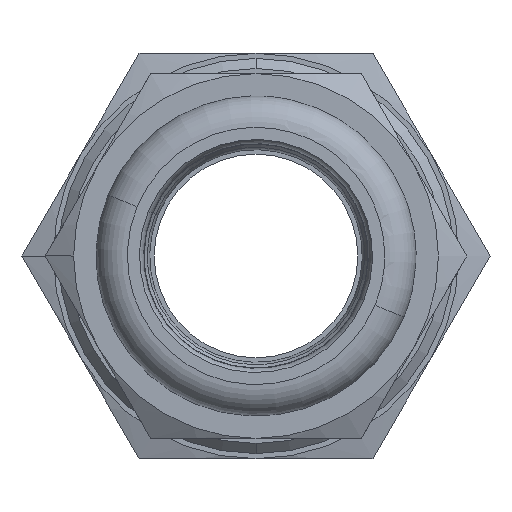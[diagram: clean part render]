
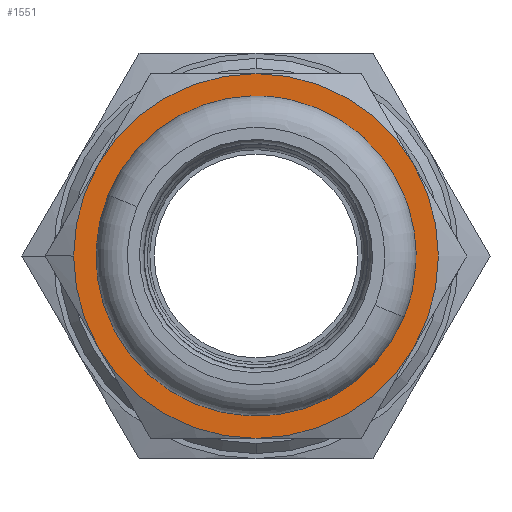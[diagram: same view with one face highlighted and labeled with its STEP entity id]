
A CAD part, left-side view. The second image highlights one B-rep face of the part: STEP entity #1551.
In plain terms, the highlighted planar face has unit normal (-1, 0, 0) as drawn and (0, 1, 0) by its records, which use the part's own axes.
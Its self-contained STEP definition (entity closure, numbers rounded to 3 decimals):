
#2 = CARTESIAN_POINT ( 'NONE',  ( 0., 17., 0. ) ) ;
#65 = ORIENTED_EDGE ( 'NONE', *, *, #2952, .T. ) ;
#66 = CIRCLE ( 'NONE', #176, 18. ) ;
#176 = AXIS2_PLACEMENT_3D ( 'NONE', #1909, #553, #2974 ) ;
#281 = ORIENTED_EDGE ( 'NONE', *, *, #2749, .T. ) ;
#332 = DIRECTION ( 'NONE',  ( 0., 0., -1. ) ) ;
#361 = CARTESIAN_POINT ( 'NONE',  ( 0., 17., 0. ) ) ;
#385 = EDGE_CURVE ( 'NONE', #2780, #1933, #66, .T. ) ;
#404 = CARTESIAN_POINT ( 'NONE',  ( 0., 17., 12.9 ) ) ;
#426 = DIRECTION ( 'NONE',  ( 0., 1., 0. ) ) ;
#478 = EDGE_LOOP ( 'NONE', ( #2626, #1219, #2972, #2854, #65, #4261, #281 ) ) ;
#516 = VERTEX_POINT ( 'NONE', #1625 ) ;
#553 = DIRECTION ( 'NONE',  ( 0., 1., 0. ) ) ;
#559 = CARTESIAN_POINT ( 'NONE',  ( 0., 17., 0. ) ) ;
#562 = CARTESIAN_POINT ( 'NONE',  ( 18., 17., 0. ) ) ;
#603 = ORIENTED_EDGE ( 'NONE', *, *, #1345, .T. ) ;
#613 = DIRECTION ( 'NONE',  ( 0., 1., 0. ) ) ;
#614 = DIRECTION ( 'NONE',  ( 0., 1., 0. ) ) ;
#630 = CARTESIAN_POINT ( 'NONE',  ( 0., 17., -18. ) ) ;
#674 = AXIS2_PLACEMENT_3D ( 'NONE', #952, #3711, #1987 ) ;
#682 = AXIS2_PLACEMENT_3D ( 'NONE', #2434, #2398, #332 ) ;
#692 = DIRECTION ( 'NONE',  ( 0., 0., 1. ) ) ;
#708 = VERTEX_POINT ( 'NONE', #404 ) ;
#767 = CARTESIAN_POINT ( 'NONE',  ( -15.588, 17., -9. ) ) ;
#952 = CARTESIAN_POINT ( 'NONE',  ( 0., 17., 0. ) ) ;
#953 = CIRCLE ( 'NONE', #674, 12.9 ) ;
#985 = CIRCLE ( 'NONE', #3536, 12.9 ) ;
#997 = DIRECTION ( 'NONE',  ( 0., 0., 1. ) ) ;
#1005 = CARTESIAN_POINT ( 'NONE',  ( 0., 17., 0. ) ) ;
#1127 = EDGE_CURVE ( 'NONE', #1681, #3288, #2439, .T. ) ;
#1173 = EDGE_CURVE ( 'NONE', #1933, #1444, #2275, .T. ) ;
#1219 = ORIENTED_EDGE ( 'NONE', *, *, #1173, .T. ) ;
#1273 = ORIENTED_EDGE ( 'NONE', *, *, #4369, .T. ) ;
#1330 = DIRECTION ( 'NONE',  ( 0., 1., 0. ) ) ;
#1345 = EDGE_CURVE ( 'NONE', #516, #708, #985, .T. ) ;
#1364 = CARTESIAN_POINT ( 'NONE',  ( 15.588, 17., 9. ) ) ;
#1430 = AXIS2_PLACEMENT_3D ( 'NONE', #3746, #614, #4118 ) ;
#1440 = CARTESIAN_POINT ( 'NONE',  ( 15.588, 17., -9. ) ) ;
#1444 = VERTEX_POINT ( 'NONE', #1440 ) ;
#1538 = VERTEX_POINT ( 'NONE', #2364 ) ;
#1551 = ADVANCED_FACE ( 'NONE', ( #4435, #1620 ), #1669, .T. ) ;
#1594 = AXIS2_PLACEMENT_3D ( 'NONE', #559, #4014, #3678 ) ;
#1620 = FACE_OUTER_BOUND ( 'NONE', #478, .T. ) ;
#1625 = CARTESIAN_POINT ( 'NONE',  ( 0., 17., -12.9 ) ) ;
#1669 = PLANE ( 'NONE',  #2592 ) ;
#1681 = VERTEX_POINT ( 'NONE', #630 ) ;
#1770 = DIRECTION ( 'NONE',  ( 0., 1., 0. ) ) ;
#1841 = AXIS2_PLACEMENT_3D ( 'NONE', #2139, #426, #2493 ) ;
#1909 = CARTESIAN_POINT ( 'NONE',  ( 0., 17., 0. ) ) ;
#1933 = VERTEX_POINT ( 'NONE', #562 ) ;
#1987 = DIRECTION ( 'NONE',  ( 0., 0., 1. ) ) ;
#2054 = DIRECTION ( 'NONE',  ( 1., 0., 0. ) ) ;
#2139 = CARTESIAN_POINT ( 'NONE',  ( 0., 17., 0. ) ) ;
#2244 = CIRCLE ( 'NONE', #1430, 18. ) ;
#2275 = CIRCLE ( 'NONE', #1841, 18. ) ;
#2364 = CARTESIAN_POINT ( 'NONE',  ( 0., 17., 18. ) ) ;
#2398 = DIRECTION ( 'NONE',  ( 0., 1., 0. ) ) ;
#2434 = CARTESIAN_POINT ( 'NONE',  ( 0., 17., 0. ) ) ;
#2439 = CIRCLE ( 'NONE', #682, 18. ) ;
#2459 = CIRCLE ( 'NONE', #1594, 18. ) ;
#2493 = DIRECTION ( 'NONE',  ( 1., 0., 0. ) ) ;
#2592 = AXIS2_PLACEMENT_3D ( 'NONE', #4036, #613, #997 ) ;
#2626 = ORIENTED_EDGE ( 'NONE', *, *, #385, .T. ) ;
#2677 = CIRCLE ( 'NONE', #3201, 18. ) ;
#2749 = EDGE_CURVE ( 'NONE', #1538, #2780, #3058, .T. ) ;
#2763 = DIRECTION ( 'NONE',  ( 0., -1., 0. ) ) ;
#2765 = DIRECTION ( 'NONE',  ( 1., 0., 0. ) ) ;
#2780 = VERTEX_POINT ( 'NONE', #1364 ) ;
#2854 = ORIENTED_EDGE ( 'NONE', *, *, #1127, .T. ) ;
#2952 = EDGE_CURVE ( 'NONE', #3288, #4170, #2244, .T. ) ;
#2972 = ORIENTED_EDGE ( 'NONE', *, *, #4288, .T. ) ;
#2974 = DIRECTION ( 'NONE',  ( 1., 0., 0. ) ) ;
#3058 = CIRCLE ( 'NONE', #4151, 18. ) ;
#3125 = EDGE_CURVE ( 'NONE', #4170, #1538, #2677, .T. ) ;
#3201 = AXIS2_PLACEMENT_3D ( 'NONE', #361, #1770, #2765 ) ;
#3288 = VERTEX_POINT ( 'NONE', #767 ) ;
#3536 = AXIS2_PLACEMENT_3D ( 'NONE', #2, #2763, #692 ) ;
#3678 = DIRECTION ( 'NONE',  ( 0., 0., -1. ) ) ;
#3711 = DIRECTION ( 'NONE',  ( 0., -1., 0. ) ) ;
#3746 = CARTESIAN_POINT ( 'NONE',  ( 0., 17., 0. ) ) ;
#4014 = DIRECTION ( 'NONE',  ( 0., 1., 0. ) ) ;
#4036 = CARTESIAN_POINT ( 'NONE',  ( 0., 17., 0. ) ) ;
#4118 = DIRECTION ( 'NONE',  ( 0., 0., -1. ) ) ;
#4151 = AXIS2_PLACEMENT_3D ( 'NONE', #1005, #1330, #2054 ) ;
#4170 = VERTEX_POINT ( 'NONE', #4301 ) ;
#4261 = ORIENTED_EDGE ( 'NONE', *, *, #3125, .T. ) ;
#4288 = EDGE_CURVE ( 'NONE', #1444, #1681, #2459, .T. ) ;
#4301 = CARTESIAN_POINT ( 'NONE',  ( -15.588, 17., 9. ) ) ;
#4366 = EDGE_LOOP ( 'NONE', ( #1273, #603 ) ) ;
#4369 = EDGE_CURVE ( 'NONE', #708, #516, #953, .T. ) ;
#4435 = FACE_BOUND ( 'NONE', #4366, .T. ) ;
